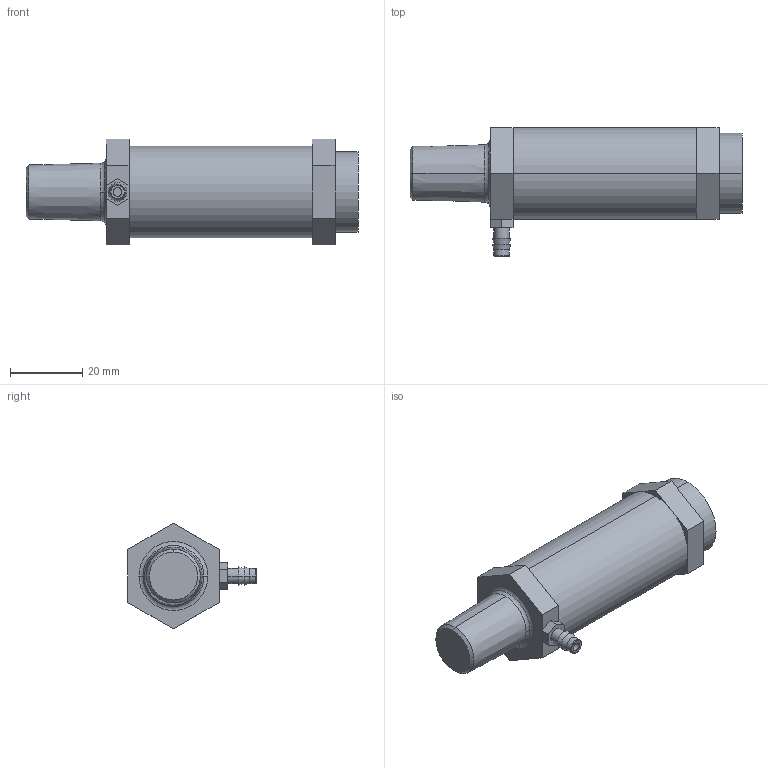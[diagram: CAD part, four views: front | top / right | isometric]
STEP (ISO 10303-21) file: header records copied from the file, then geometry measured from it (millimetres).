
FILE_DESCRIPTION((''),'2;1');
FILE_NAME('XC2_ASM','2017-08-24T',('jennifer.elliott'),('CenterLine (Windsor) Ltd - Automation Components Division'),'PRO/ENGINEER BY PARAMETRIC TECHNOLOGY CORPORATION, 2015030','PRO/ENGINEER BY PARAMETRIC TECHNOLOGY CORPORATION, 2015030','');
FILE_SCHEMA(('AUTOMOTIVE_DESIGN { 1 0 10303 214 1 1 1 1 }'));
Length unit declared in the file: inch
Products named in the file (6): PRT0965; PRT0966; PRT0967; PRT0968; PRT0969; XC2_ASM
Assembly tree (5 placements, depth 2):
  XC2_ASM
    PRT0965
    PRT0966
    PRT0967
    PRT0968
    PRT0969
Bounding box: 92.08 x 35.71 x 29.33 mm (x, y, z)
Volume: 39653.8 mm3; surface area: 10952.1 mm2
Topology: 5 solids, 5 shells, 58 faces, 123 edges, 79 vertices
Faces by surface type: plane 32, cylinder 10, torus 8, cone 8
Entity records: 1951 total; most frequent: DIRECTION 312, CARTESIAN_POINT 287, ORIENTED_EDGE 246, EDGE_CURVE 123, AXIS2_PLACEMENT_3D 120, VERTEX_POINT 79, VECTOR 72, LINE 72
